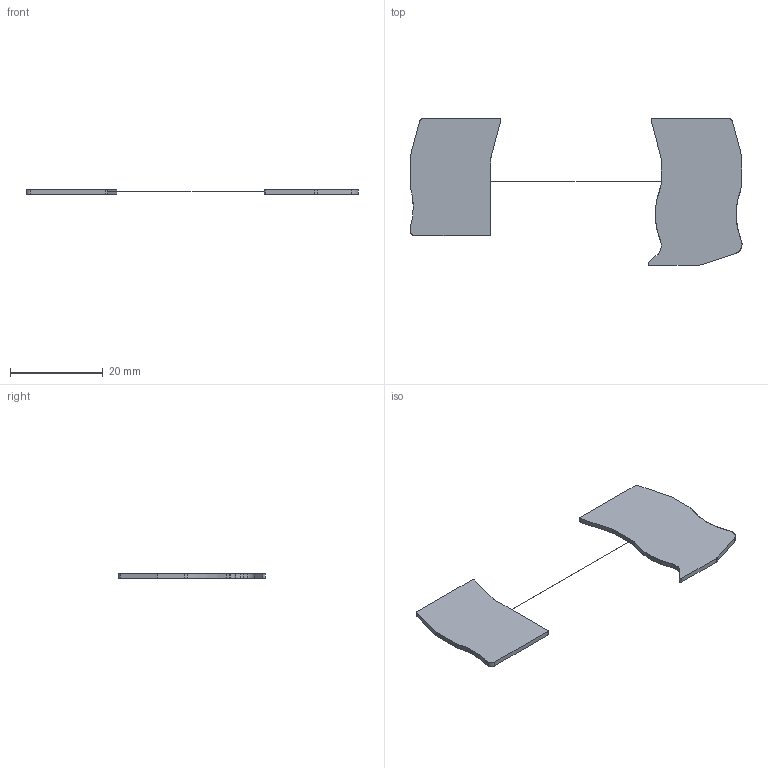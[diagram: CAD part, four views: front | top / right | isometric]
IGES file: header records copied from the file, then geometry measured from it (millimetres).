
Global section: file name: 3205200_ds_qtc15_select.igs; native system: OneSpace Designer 3D IGES; preprocessor: 13.01  05-Feb-2005; date: 20051123.135649; units: millimetre
Bounding box: 71.55 x 31.55 x 1 mm (x, y, z)
Surface area: 2141 mm2 (no closed solid volume)
Topology: 0 solids, 0 shells, 48 faces, 358 edges, 358 vertices
Faces by surface type: bspline 48
